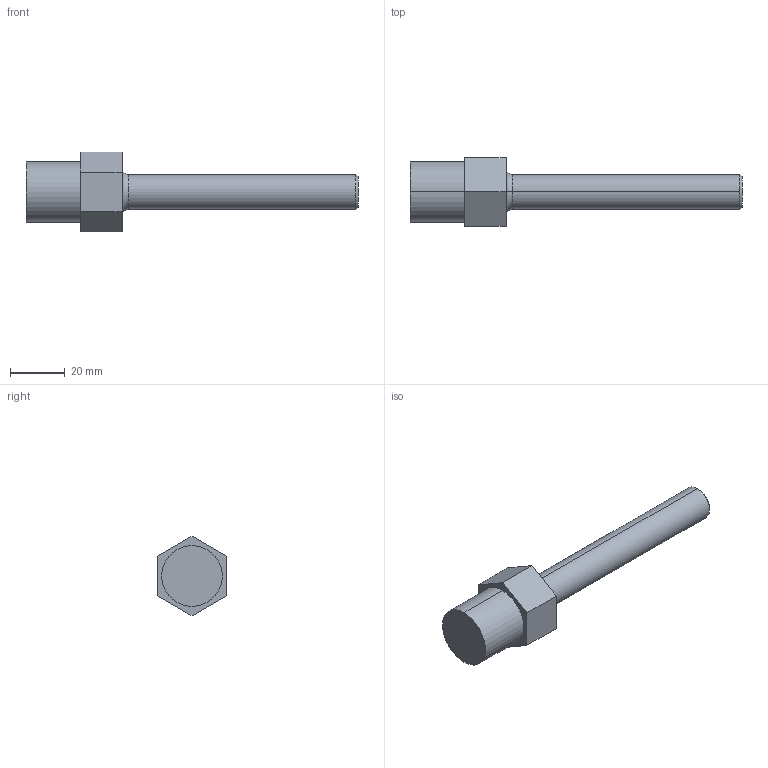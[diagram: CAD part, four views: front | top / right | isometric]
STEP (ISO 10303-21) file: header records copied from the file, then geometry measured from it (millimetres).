
FILE_DESCRIPTION (( 'STEP AP214' ), '1' );
FILE_NAME ('Fitting Tubeout 08.STEP', '2012-09-26T21:36:24', ( '' ), ( '' ), 'SwSTEP 2.0', 'SolidWorks 2012', '' );
FILE_SCHEMA (( 'AUTOMOTIVE_DESIGN' ));
Length unit declared in the file: inch
Products named in the file (1): Fitting Tubeout 08
Bounding box: 121.72 x 25.25 x 29.16 mm (x, y, z)
Volume: 27168 mm3; surface area: 7227.5 mm2
Topology: 1 solids, 1 shells, 18 faces, 38 edges, 24 vertices
Faces by surface type: plane 10, cylinder 4, torus 2, cone 2
Entity records: 563 total; most frequent: DIRECTION 90, CARTESIAN_POINT 81, ORIENTED_EDGE 76, EDGE_CURVE 38, AXIS2_PLACEMENT_3D 33, VERTEX_POINT 24, VECTOR 24, LINE 24
